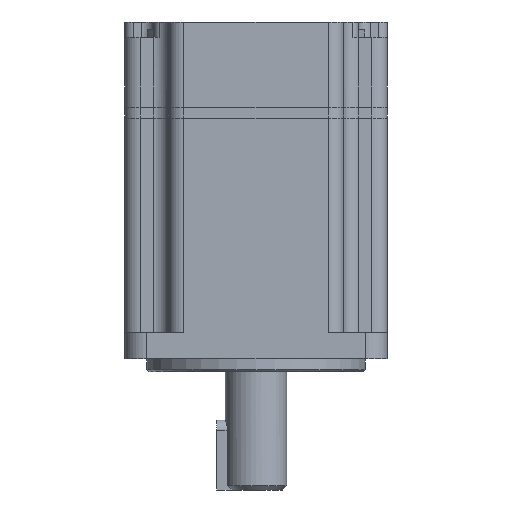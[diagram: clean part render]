
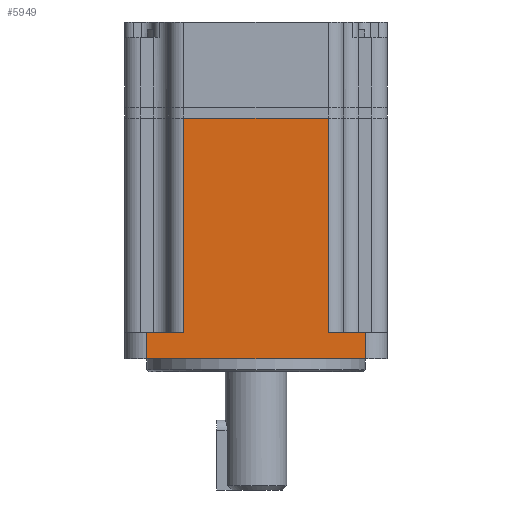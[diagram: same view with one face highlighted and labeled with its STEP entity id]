
A CAD part, front view. The second image highlights one B-rep face of the part: STEP entity #5949.
In plain terms, the highlighted planar face has unit normal (0, -1, 0).
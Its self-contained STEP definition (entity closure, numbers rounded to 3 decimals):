
#680 = ORIENTED_EDGE ( 'NONE', *, *, #34694, .T. ) ;
#2303 = VERTEX_POINT ( 'NONE', #35040 ) ;
#2902 = VERTEX_POINT ( 'NONE', #57450 ) ;
#4613 = ORIENTED_EDGE ( 'NONE', *, *, #32479, .T. ) ;
#5949 = ADVANCED_FACE ( 'NONE', ( #57605 ), #17404, .F. ) ;
#6371 = ORIENTED_EDGE ( 'NONE', *, *, #31584, .F. ) ;
#7114 = CARTESIAN_POINT ( 'NONE',  ( -30., -30., 58. ) ) ;
#8132 = EDGE_CURVE ( 'NONE', #2902, #14482, #57263, .T. ) ;
#8496 = DIRECTION ( 'NONE',  ( 0., 0., 1. ) ) ;
#9492 = CARTESIAN_POINT ( 'NONE',  ( 16.5, -30., 9. ) ) ;
#11349 = DIRECTION ( 'NONE',  ( -1., 0., 0. ) ) ;
#11479 = VECTOR ( 'NONE', #35146, 1000. ) ;
#11564 = VECTOR ( 'NONE', #8496, 1000. ) ;
#12309 = CARTESIAN_POINT ( 'NONE',  ( 25., -30., 3. ) ) ;
#12970 = CARTESIAN_POINT ( 'NONE',  ( -30., -30., 58. ) ) ;
#13263 = LINE ( 'NONE', #48407, #54525 ) ;
#13433 = VERTEX_POINT ( 'NONE', #50818 ) ;
#14129 = ORIENTED_EDGE ( 'NONE', *, *, #26240, .F. ) ;
#14482 = VERTEX_POINT ( 'NONE', #9492 ) ;
#14717 = DIRECTION ( 'NONE',  ( 0., 0., 1. ) ) ;
#15550 = VERTEX_POINT ( 'NONE', #20263 ) ;
#15759 = VERTEX_POINT ( 'NONE', #18296 ) ;
#16652 = LINE ( 'NONE', #51832, #39272 ) ;
#17142 = LINE ( 'NONE', #7114, #11479 ) ;
#17404 = PLANE ( 'NONE',  #54432 ) ;
#17767 = VECTOR ( 'NONE', #24881, 1000. ) ;
#18296 = CARTESIAN_POINT ( 'NONE',  ( -25., -30., 3. ) ) ;
#19104 = VECTOR ( 'NONE', #14717, 1000. ) ;
#20263 = CARTESIAN_POINT ( 'NONE',  ( -16.5, -30., 9. ) ) ;
#21226 = DIRECTION ( 'NONE',  ( -1., 0., 0. ) ) ;
#21267 = DIRECTION ( 'NONE',  ( -1., 0., 0. ) ) ;
#21348 = EDGE_LOOP ( 'NONE', ( #6371, #4613, #45193, #40600, #49139, #14129, #21699, #680 ) ) ;
#21699 = ORIENTED_EDGE ( 'NONE', *, *, #32526, .T. ) ;
#22122 = CARTESIAN_POINT ( 'NONE',  ( -30., -30., 9. ) ) ;
#22406 = CARTESIAN_POINT ( 'NONE',  ( -16.5, -30., -86.632 ) ) ;
#24881 = DIRECTION ( 'NONE',  ( 0., 0., -1. ) ) ;
#25614 = EDGE_CURVE ( 'NONE', #28684, #2303, #17142, .T. ) ;
#26240 = EDGE_CURVE ( 'NONE', #15550, #28684, #58428, .T. ) ;
#28684 = VERTEX_POINT ( 'NONE', #32058 ) ;
#29821 = VECTOR ( 'NONE', #21226, 1000. ) ;
#30916 = VECTOR ( 'NONE', #21267, 1000. ) ;
#31584 = EDGE_CURVE ( 'NONE', #32836, #15759, #16652, .T. ) ;
#32058 = CARTESIAN_POINT ( 'NONE',  ( -16.5, -30., 58. ) ) ;
#32479 = EDGE_CURVE ( 'NONE', #32836, #2902, #13263, .T. ) ;
#32526 = EDGE_CURVE ( 'NONE', #15550, #13433, #49308, .T. ) ;
#32836 = VERTEX_POINT ( 'NONE', #12309 ) ;
#34694 = EDGE_CURVE ( 'NONE', #13433, #15759, #51170, .T. ) ;
#34812 = DIRECTION ( 'NONE',  ( 0., 0., 1. ) ) ;
#35040 = CARTESIAN_POINT ( 'NONE',  ( 16.5, -30., 58. ) ) ;
#35146 = DIRECTION ( 'NONE',  ( 1., 0., 0. ) ) ;
#39272 = VECTOR ( 'NONE', #11349, 1000. ) ;
#40600 = ORIENTED_EDGE ( 'NONE', *, *, #46848, .T. ) ;
#43683 = CARTESIAN_POINT ( 'NONE',  ( -30., -30., 9. ) ) ;
#45193 = ORIENTED_EDGE ( 'NONE', *, *, #8132, .T. ) ;
#46848 = EDGE_CURVE ( 'NONE', #14482, #2303, #55496, .T. ) ;
#48407 = CARTESIAN_POINT ( 'NONE',  ( 25., -30., 58. ) ) ;
#48704 = DIRECTION ( 'NONE',  ( 0., 0., 1. ) ) ;
#48996 = DIRECTION ( 'NONE',  ( 0., 1., 0. ) ) ;
#49139 = ORIENTED_EDGE ( 'NONE', *, *, #25614, .F. ) ;
#49308 = LINE ( 'NONE', #43683, #30916 ) ;
#50818 = CARTESIAN_POINT ( 'NONE',  ( -25., -30., 9. ) ) ;
#51170 = LINE ( 'NONE', #51460, #17767 ) ;
#51460 = CARTESIAN_POINT ( 'NONE',  ( -25., -30., 58. ) ) ;
#51832 = CARTESIAN_POINT ( 'NONE',  ( -30., -30., 3. ) ) ;
#54432 = AXIS2_PLACEMENT_3D ( 'NONE', #12970, #48996, #48704 ) ;
#54525 = VECTOR ( 'NONE', #34812, 1000. ) ;
#55496 = LINE ( 'NONE', #56355, #19104 ) ;
#56355 = CARTESIAN_POINT ( 'NONE',  ( 16.5, -30., -86.632 ) ) ;
#57263 = LINE ( 'NONE', #22122, #29821 ) ;
#57450 = CARTESIAN_POINT ( 'NONE',  ( 25., -30., 9. ) ) ;
#57605 = FACE_OUTER_BOUND ( 'NONE', #21348, .T. ) ;
#58428 = LINE ( 'NONE', #22406, #11564 ) ;
